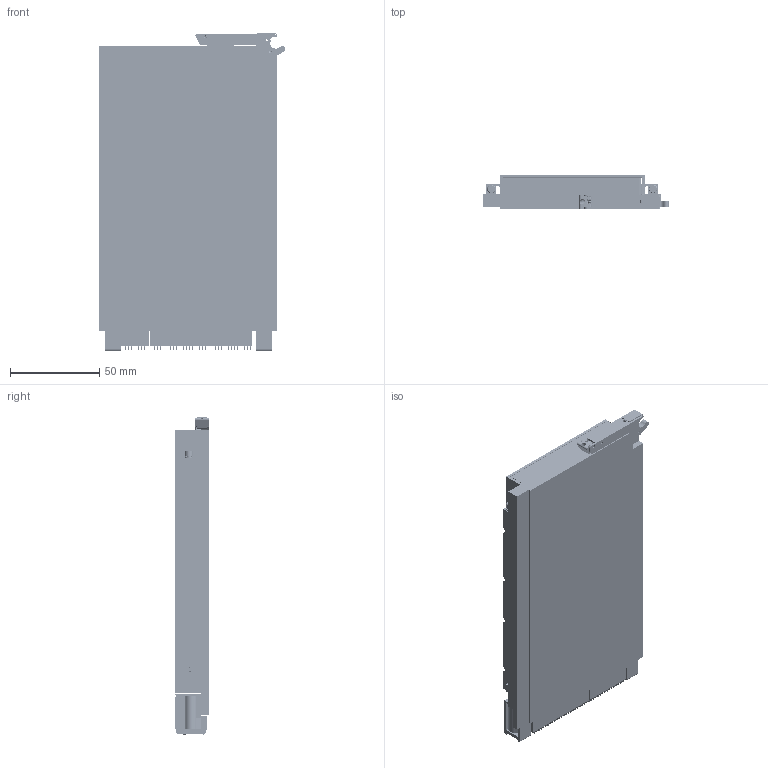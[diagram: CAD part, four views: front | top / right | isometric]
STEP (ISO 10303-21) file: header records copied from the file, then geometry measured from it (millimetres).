
FILE_DESCRIPTION (( 'STEP AP203' ), '1' );
FILE_NAME ('3U-VPX48.2-PS-265-311TC.step', '2018-06-15T20:56:32', ( '' ), ( '' ), 'SwSTEP 2.0', 'SolidWorks 2014', '' );
FILE_SCHEMA (( 'CONFIG_CONTROL_DESIGN' ));
Products named in the file (1): 3U-VPX48.2-PS-265-311TC
Bounding box: 104.37 x 19.58 x 177.74 mm (x, y, z)
Volume: 257665.5 mm3; surface area: 220640.1 mm2
Topology: 306 solids, 306 shells, 21791 faces, 61190 edges, 39670 vertices
Faces by surface type: plane 17860, cylinder 2742, bspline 1004, cone 179, torus 6
Entity records: 744754 total; most frequent: CARTESIAN_POINT 191755, ORIENTED_EDGE 118712, DIRECTION 105518, EDGE_CURVE 59356, LINE 51180, VECTOR 51180, VERTEX_POINT 39670, AXIS2_PLACEMENT_3D 27169
